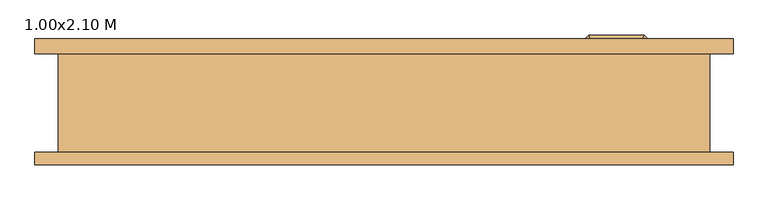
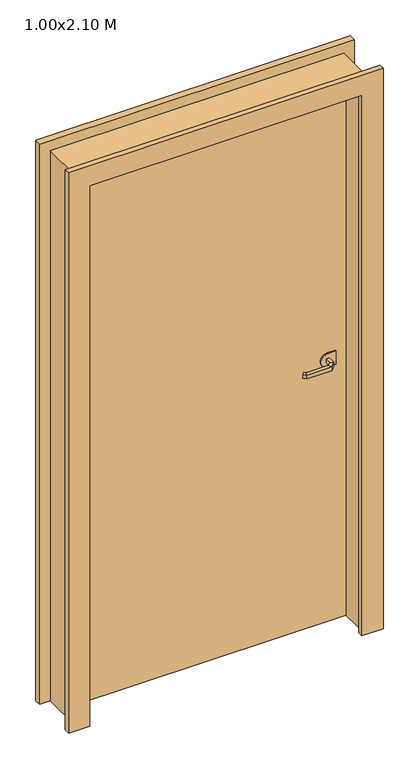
"""IFC4 building model written with IfcOpenShell, lengths in millimetres: door geometry, PUERTA DE  MADERA-CEDRO : 1.00x2.10 M."""

import ifcopenshell
import ifcopenshell.guid

model = None  # the IFC model being written
_history = None  # IfcOwnerHistory: only IFC2X3 demands one
_inside = {}  # id of a spatial element -> (the spatial element, [elements in it])
_under = {}  # id of a project, library or spatial element -> (it, [spatial elements below it])
_declared = {}  # id of a project -> (the project, [libraries it declares])
_typed = {}  # id of a type object -> (the type object, [elements of that type])
_made_of = {}  # id of a material, layer set ... -> (it, [elements and type objects made of it])


def new_model(schema):
    """Start an empty IFC model of exactly this schema.

    Asked for "IFC4X3", IfcOpenShell would pick the latest addendum, in which some entities
    have other attributes; the version numbers below select the first issue.
    IFC2X3 requires an IfcOwnerHistory on every rooted entity: one is made here for all.
    """
    global model, _history
    if schema == "IFC4X3":
        model = ifcopenshell.file(schema_version=(4, 3, 0, 0))
    else:
        model = ifcopenshell.file(schema=schema)
    _inside.clear()
    _under.clear()
    _declared.clear()
    _typed.clear()
    _made_of.clear()
    _history = None
    if model.schema == "IFC2X3":
        org = make("IfcOrganization", Name="unknown")
        user = make(
            "IfcPersonAndOrganization",
            ThePerson=make("IfcPerson", FamilyName="unknown"),
            TheOrganization=org,
        )
        app = make(
            "IfcApplication",
            ApplicationDeveloper=org,
            Version="unknown",
            ApplicationFullName="unknown",
            ApplicationIdentifier="unknown",
        )
        _history = make(
            "IfcOwnerHistory",
            OwningUser=user,
            OwningApplication=app,
            ChangeAction="ADDED",
            CreationDate=0,
        )
    return model


def make(cls, **values):
    """One entity of the class cls with the attributes given. An attribute that is None is left unset."""
    return model.create_entity(
        cls, **{name: value for name, value in values.items() if value is not None}
    )


def rooted(cls, **values):
    """An entity with a GlobalId (a new one), such as an element, a storey or a relation."""
    return make(cls, GlobalId=ifcopenshell.guid.new(), OwnerHistory=_history, **values)


def si_unit(unit_type, name, prefix=None):
    """IfcSIUnit, for example si_unit("LENGTHUNIT", "METRE", prefix="MILLI")."""
    return make("IfcSIUnit", UnitType=unit_type, Prefix=prefix, Name=name)


def assignment(units):
    """IfcUnitAssignment: the units of a project."""
    return None if units is None else make("IfcUnitAssignment", Units=units)


def point(xyz):
    """IfcCartesianPoint."""
    return None if xyz is None else make("IfcCartesianPoint", Coordinates=xyz)


def direction(xyz):
    """IfcDirection."""
    return None if xyz is None else make("IfcDirection", DirectionRatios=xyz)


def frame(location, z_axis=None, x_axis=None):
    """IfcAxis2Placement3D, a coordinate frame: its origin and axes. An axis left out is left unset."""
    return make(
        "IfcAxis2Placement3D",
        Location=point(location),
        Axis=direction(z_axis),
        RefDirection=direction(x_axis),
    )


def frame_2d(location, x_axis=None):
    """IfcAxis2Placement2D, a coordinate frame in the plane: its origin and x axis."""
    return make(
        "IfcAxis2Placement2D", Location=point(location), RefDirection=direction(x_axis)
    )


def origin():
    """The frame at (0, 0, 0) with its axes left unset."""
    return frame((0.0, 0.0, 0.0))


def origin_with_axes():
    """The frame at (0, 0, 0) with the z axis (0, 0, 1) and the x axis (1, 0, 0) written out."""
    return frame((0.0, 0.0, 0.0), z_axis=(0.0, 0.0, 1.0), x_axis=(1.0, 0.0, 0.0))


def place(relative_to, where):
    """IfcLocalPlacement: puts the frame where relative to a parent placement (None: the world)."""
    return make(
        "IfcLocalPlacement", PlacementRelTo=relative_to, RelativePlacement=where
    )


def context(
    kind, dimensions, precision=None, world=None, true_north=None, identifier=None
):
    """IfcGeometricRepresentationContext, for example the 3D "Model" context."""
    return make(
        "IfcGeometricRepresentationContext",
        ContextIdentifier=identifier,
        ContextType=kind,
        CoordinateSpaceDimension=dimensions,
        Precision=precision,
        WorldCoordinateSystem=world,
        TrueNorth=true_north,
    )


def project(units=None, contexts=None):
    """IfcProject with its units and contexts."""
    return rooted(
        "IfcProject",
        Name="project",
        RepresentationContexts=contexts,
        UnitsInContext=assignment(units),
    )


def spatial(cls, under=None, at=None, **own):
    """A site, building, storey or space (cls), placed at a placement, below another one or the project."""
    s = rooted(cls, ObjectPlacement=at, **own)
    if under is not None:
        _under.setdefault(under.id(), (under, []))[1].append(s)
    return s


def polyline(points):
    """IfcPolyline through the points."""
    return make("IfcPolyline", Points=[point(p) for p in points])


def circle_curve(where, radius):
    """IfcCircle in the frame where."""
    return make("IfcCircle", Position=where, Radius=radius)


def ellipse_curve(where, semi_axis1, semi_axis2):
    """IfcEllipse in the frame where."""
    return make(
        "IfcEllipse", Position=where, SemiAxis1=semi_axis1, SemiAxis2=semi_axis2
    )


def trimmed(basis, trim1, trim2, sense, master):
    """IfcTrimmedCurve: the piece of a basis curve between two trims."""
    return make(
        "IfcTrimmedCurve",
        BasisCurve=basis,
        Trim1=trim1,
        Trim2=trim2,
        SenseAgreement=sense,
        MasterRepresentation=master,
    )


def segment(curve, same_sense, transition):
    """IfcCompositeCurveSegment."""
    return make(
        "IfcCompositeCurveSegment",
        Transition=transition,
        SameSense=same_sense,
        ParentCurve=curve,
    )


def composite_curve(segments, self_intersect=None):
    """IfcCompositeCurve: segments joined end to end."""
    return make("IfcCompositeCurve", Segments=segments, SelfIntersect=self_intersect)


def outline(outer, holes=None, kind="AREA"):
    """IfcArbitraryClosedProfileDef: a profile drawn as a closed curve; with holes, ...WithVoids."""
    if holes is None:
        return make("IfcArbitraryClosedProfileDef", ProfileType=kind, OuterCurve=outer)
    return make(
        "IfcArbitraryProfileDefWithVoids",
        ProfileType=kind,
        OuterCurve=outer,
        InnerCurves=holes,
    )


def extrude(swept, where, along, depth):
    """IfcExtrudedAreaSolid: the profile swept, set in the frame where, extruded along a direction by depth."""
    return make(
        "IfcExtrudedAreaSolid",
        SweptArea=swept,
        Position=where,
        ExtrudedDirection=direction(along),
        Depth=depth,
    )


def faces_of(points, faces, orient=None, outer=None):
    """IfcFace entities. A face is a list of loops; a loop is a list of indices into points, from 0.

    orient and outer hold one flag for each loop. By default every Orientation is true, the
    first loop of a face is its IfcFaceOuterBound and the others are IfcFaceBound.
    """
    made = []
    for i, loops in enumerate(faces):
        bounds = []
        for j, loop in enumerate(loops):
            is_outer = j == 0 if outer is None else outer[i][j]
            bounds.append(
                make(
                    "IfcFaceOuterBound" if is_outer else "IfcFaceBound",
                    Bound=make("IfcPolyLoop", Polygon=[points[k] for k in loop]),
                    Orientation=True if orient is None else orient[i][j],
                )
            )
        made.append(make("IfcFace", Bounds=bounds))
    return made


def faceted_brep(points, faces, orient=None, outer=None, voids=None):
    """IfcFacetedBrep: a solid bounded by flat faces; with voids (closed shells), ...WithVoids."""
    shared = [point(p) for p in points]
    hull = make("IfcClosedShell", CfsFaces=faces_of(shared, faces, orient, outer))
    if voids is None:
        return make("IfcFacetedBrep", Outer=hull)
    return make(
        "IfcFacetedBrepWithVoids",
        Outer=hull,
        Voids=[
            make(cls, CfsFaces=faces_of(shared, fs, o, b)) for cls, fs, o, b in voids
        ],
    )


def shape(context_of_items, identifier, shape_type, items):
    """IfcShapeRepresentation: the items that make up one representation, for example the "Body"."""
    return make(
        "IfcShapeRepresentation",
        ContextOfItems=context_of_items,
        RepresentationIdentifier=identifier,
        RepresentationType=shape_type,
        Items=items,
    )


def source(mapping_origin, context_of_items, identifier, shape_type, items):
    """IfcRepresentationMap: a shape defined once, which mapped items show again and again."""
    return make(
        "IfcRepresentationMap",
        MappingOrigin=mapping_origin,
        MappedRepresentation=shape(context_of_items, identifier, shape_type, items),
    )


def transform(
    local_origin,
    x_axis=None,
    y_axis=None,
    z_axis=None,
    scale=None,
    scale2=None,
    scale3=None,
    uniform=True,
):
    """IfcCartesianTransformationOperator3D, or its non-uniform kind. x_axis, y_axis, z_axis: its Axis1, 2, 3."""
    if uniform:
        return make(
            "IfcCartesianTransformationOperator3D",
            Axis1=direction(x_axis),
            Axis2=direction(y_axis),
            LocalOrigin=point(local_origin),
            Scale=scale,
            Axis3=direction(z_axis),
        )
    return make(
        "IfcCartesianTransformationOperator3DnonUniform",
        Axis1=direction(x_axis),
        Axis2=direction(y_axis),
        LocalOrigin=point(local_origin),
        Scale=scale,
        Axis3=direction(z_axis),
        Scale2=scale2,
        Scale3=scale3,
    )


def mapped(mapping_source, mapping_target):
    """IfcMappedItem: shows the shape of a source again, moved by a transform."""
    return make(
        "IfcMappedItem", MappingSource=mapping_source, MappingTarget=mapping_target
    )


def made_of(thing, what):
    """Note that an element or type object is made of a material, layer set ...; save() writes the relation."""
    if what is not None:
        _made_of.setdefault(what.id(), (what, []))[1].append(thing)
    return thing


def element(
    cls,
    number,
    at=None,
    inside=None,
    cuts=None,
    type_object=None,
    material=None,
    context=None,
    identifier="Body",
    shape_type=None,
    held_by="IfcProductDefinitionShape",
    body=None,
    shapes=None,
    **own,
):
    """One element of the class cls, such as IfcWall. Its Tag is "e" and its number.

    at: its placement. inside: the storey or other place that contains it. cuts: it is an
    opening in that element (IfcRelVoidsElement). A single representation is given by context,
    identifier, shape_type and body (its items); several are given by shapes. held_by: the class
    of the entity that holds the representations. save() writes the other relations.
    """
    e = rooted(cls, Tag="e%d" % number, ObjectPlacement=at, **own)
    if body is not None:
        shapes = [shape(context, identifier, shape_type, body)]
    if shapes is not None:
        e.Representation = make(held_by, Representations=shapes)
    if inside is not None:
        _inside.setdefault(inside.id(), (inside, []))[1].append(e)
    if cuts is not None:
        rooted(
            "IfcRelVoidsElement", RelatingBuildingElement=cuts, RelatedOpeningElement=e
        )
    if type_object is not None:
        _typed.setdefault(type_object.id(), (type_object, []))[1].append(e)
    return made_of(e, material)


def aggregate(whole, parts):
    """IfcRelAggregates: a whole, such as a stair, and the parts it consists of."""
    return rooted("IfcRelAggregates", RelatingObject=whole, RelatedObjects=parts)


def save(model, path):
    """Write the relations noted so far, then the file.

    IfcRelAggregates (storeys below a building ...), IfcRelContainedInSpatialStructure (elements
    in a storey), IfcRelDefinesByType, IfcRelAssociatesMaterial and IfcRelDeclares: one each for
    every whole, place, type object, material and project.
    """
    for whole, parts in _under.values():
        aggregate(whole, parts)
    for where, things in _inside.values():
        rooted(
            "IfcRelContainedInSpatialStructure",
            RelatedElements=things,
            RelatingStructure=where,
        )
    for kind, things in _typed.values():
        rooted("IfcRelDefinesByType", RelatedObjects=things, RelatingType=kind)
    for what, things in _made_of.values():
        rooted("IfcRelAssociatesMaterial", RelatedObjects=things, RelatingMaterial=what)
    for by, libraries in _declared.values():
        rooted("IfcRelDeclares", RelatingContext=by, RelatedDefinitions=libraries)
    model.write(path)


def plane_surface(at):
    """IfcPlane: the flat surface through the origin of the frame at, square to its z axis."""
    return make("IfcPlane", Position=at)


def cylinder_surface(at, radius):
    """IfcCylindricalSurface: all points at the distance radius from the z axis of the frame at."""
    return make("IfcCylindricalSurface", Position=at, Radius=radius)


def advanced_brep(points, edges, surfaces, faces):
    """IfcAdvancedBrep: a solid bounded by faces that lie on surfaces and meet in shared edges.

    An edge is (start, end): straight between two places in points (the first is 0);
    or (start, end, curve); or (start, end, curve, False) where it runs against its curve.
    A face is (place in surfaces, loops), or (place, loops, False) where it looks against
    its surface's normal. A loop lists edges by number (the first is 1), with a minus sign
    where the edge is run from its end to its start. The first loop is the outer one.
    """
    corners = [point(p) for p in points]
    vertices = [make("IfcVertexPoint", VertexGeometry=c) for c in corners]
    made = []
    for start, end, *more in edges:
        made.append(
            make(
                "IfcEdgeCurve",
                EdgeStart=vertices[start],
                EdgeEnd=vertices[end],
                EdgeGeometry=more[0] if more else make("IfcPolyline", Points=[corners[start], corners[end]]),
                SameSense=more[1] if len(more) > 1 else True,
            )
        )
    hull = []
    for where, loops, *sense in faces:
        bounds = []
        for j, loop in enumerate(loops):
            ring = [make("IfcOrientedEdge", EdgeElement=made[abs(k) - 1], Orientation=k > 0) for k in loop]
            bounds.append(
                make(
                    "IfcFaceOuterBound" if j == 0 else "IfcFaceBound",
                    Bound=make("IfcEdgeLoop", EdgeList=ring),
                    Orientation=True,
                )
            )
        hull.append(make("IfcAdvancedFace", Bounds=bounds, FaceSurface=surfaces[where], SameSense=sense[0] if sense else True))
    return make("IfcAdvancedBrep", Outer=make("IfcClosedShell", CfsFaces=hull))


def door_1_00x2_10_m_2c351bbd(model_context):
    return source(origin(), model_context, "Body", "SolidModel", [
        extrude(outline(composite_curve([segment(polyline([(975.0, 465.9), (1025.0, 465.9), (1025.0, 435.9)]), True, "CONTINUOUS"), segment(trimmed(circle_curve(frame_2d((1000.0, 435.9)), 25.0), [point((1025.0, 435.9))], [point((975.0, 435.9))], False, "CARTESIAN"), True, "CONTINUOUS"), segment(polyline([(975.0, 435.9), (975.0, 465.9)]), True, "CONTINUOUS")], self_intersect=False)), frame((0.0, 16.9, 0.0), z_axis=(0.0, 1.0, 0.0), x_axis=(0.0, 0.0, 1.0)), (0.0, 0.0, 1.0), 5.0),
        advanced_brep(
        [(429.9, 16.9, 993.0), (429.9, 16.9, 1007.0), (441.9, 16.9, 1007.0), (441.9, 16.9, 993.0), (429.9, -5.5852045, 993.0), (429.9, -5.5852045, 1007.0), (441.9, -10.5557673, 1007.0), (441.9, -10.5557673, 993.0), (418.4147186, -17.0704859, 993.0), (418.4147186, -17.0704859, 1007.0), (423.3852814, -29.0704859, 1007.0), (423.3852814, -29.0704859, 993.0), (338.3394977, -17.0704859, 993.0), (338.3394977, -17.0704859, 1007.0), (333.368935, -29.0704859, 1007.0), (333.368935, -29.0704859, 993.0), (333.0257892, -11.7567774, 993.0), (324.5405078, -20.2420588, 993.0), (324.5405078, -20.2420588, 1007.0), (333.0257892, -11.7567774, 1007.0)],
        [
            (0, 1),
            (1, 2, circle_curve(frame((435.9, 16.9, 986.9542278), z_axis=(0.0, 1.0, 0.0), x_axis=(1.0, 0.0, 0.0)), 20.9244589)),
            (2, 3),
            (3, 0, circle_curve(frame((435.9, 16.9, 1013.0457722), z_axis=(0.0, 1.0, 0.0), x_axis=(1.0, 0.0, 0.0)), 20.9244589)),
            (0, 4),
            (4, 5),
            (5, 1),
            (5, 6, ellipse_curve(frame((435.9, -8.0704859, 986.9542278), z_axis=(0.38268343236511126, 0.9238795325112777, 0.0), x_axis=(-0.9238795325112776, 0.3826834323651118, 0.0)), 22.6484711, 20.9244589)),
            (6, 2),
            (6, 7),
            (7, 3),
            (7, 4, ellipse_curve(frame((435.9, -8.0704859, 1013.0457722), z_axis=(0.38268343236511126, 0.9238795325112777, 0.0), x_axis=(-0.9238795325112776, 0.3826834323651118, 0.0)), 22.6484711, 20.9244589)),
            (4, 8),
            (8, 9),
            (9, 5),
            (9, 10, ellipse_curve(frame((420.9, -23.0704859, 986.9542278), z_axis=(0.9238795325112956, 0.3826834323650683, 0.0), x_axis=(-0.38268343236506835, 0.9238795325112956, 0.0)), 22.6484711, 20.9244589)),
            (10, 6),
            (10, 11),
            (11, 7),
            (11, 8, ellipse_curve(frame((420.9, -23.0704859, 1013.0457722), z_axis=(0.9238795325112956, 0.3826834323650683, 0.0), x_axis=(-0.38268343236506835, 0.9238795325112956, 0.0)), 22.6484711, 20.9244589)),
            (8, 12),
            (12, 13),
            (13, 9),
            (13, 14, ellipse_curve(frame((335.8542163, -23.0704859, 986.9542278), z_axis=(0.9238795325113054, -0.3826834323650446, 0.0), x_axis=(0.3826834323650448, 0.9238795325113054, 0.0)), 22.6484711, 20.9244589)),
            (14, 10),
            (14, 15),
            (15, 11),
            (15, 12, ellipse_curve(frame((335.8542163, -23.0704859, 1013.0457722), z_axis=(0.9238795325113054, -0.3826834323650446, 0.0), x_axis=(0.3826834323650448, 0.9238795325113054, 0.0)), 22.6484711, 20.9244589)),
            (16, 17, circle_curve(frame((328.7831485, -15.9994181, 1013.0457722), z_axis=(-0.707106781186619, 0.7071067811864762, 0.0), x_axis=(-0.7071067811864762, -0.707106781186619, 0.0)), 20.9244589)),
            (17, 18),
            (18, 19, circle_curve(frame((328.7831485, -15.9994181, 986.9542278), z_axis=(-0.707106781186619, 0.7071067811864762, 0.0), x_axis=(-0.7071067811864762, -0.707106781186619, 0.0)), 20.9244589)),
            (19, 16),
            (12, 16),
            (19, 13),
            (18, 14),
            (17, 15),
        ],
        [
            plane_surface(frame((445.1195445, 16.9, 1000.0), z_axis=(0.0, 1.0, 0.0), x_axis=(0.0, 0.0, 1.0))),
            plane_surface(frame((429.9, 16.9, 993.0), z_axis=(-1.0, 0.0, 0.0), x_axis=(0.0, -1.0, 0.0))),
            cylinder_surface(frame((435.9, 16.9, 986.9542278), z_axis=(0.0, 1.0, 0.0), x_axis=(1.0, 0.0, 0.0)), 20.9244589),
            plane_surface(frame((441.9, 16.9, 1007.0), z_axis=(1.0, 0.0, 0.0), x_axis=(0.0, -1.0, 0.0))),
            cylinder_surface(frame((435.9, 16.9, 1013.0457722), z_axis=(0.0, 1.0, 0.0), x_axis=(1.0, 0.0, 0.0)), 20.9244589),
            plane_surface(frame((429.9, -5.5852045, 993.0), z_axis=(-0.7071067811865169, 0.7071067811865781, 0.0), x_axis=(-0.7071067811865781, -0.7071067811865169, 0.0))),
            cylinder_surface(frame((435.9, -8.0704859, 986.9542278), z_axis=(0.7071067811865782, 0.7071067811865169, 0.0), x_axis=(0.7071067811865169, -0.7071067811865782, 0.0)), 20.9244589),
            plane_surface(frame((441.9, -10.5557673, 1007.0), z_axis=(0.7071067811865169, -0.7071067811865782, 0.0), x_axis=(-0.7071067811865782, -0.7071067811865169, 0.0))),
            cylinder_surface(frame((435.9, -8.0704859, 1013.0457722), z_axis=(0.7071067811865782, 0.7071067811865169, 0.0), x_axis=(0.7071067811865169, -0.7071067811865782, 0.0)), 20.9244589),
            plane_surface(frame((418.4147186, -17.0704859, 993.0), z_axis=(0.0, 1.0, 0.0), x_axis=(-1.0, 0.0, 0.0))),
            cylinder_surface(frame((420.9, -23.0704859, 986.9542278), z_axis=(1.0, 0.0, 0.0), x_axis=(0.0, -1.0, 0.0)), 20.9244589),
            plane_surface(frame((423.3852814, -29.0704859, 1007.0), z_axis=(0.0, -1.0, 0.0), x_axis=(-1.0, 0.0, 0.0))),
            cylinder_surface(frame((420.9, -23.0704859, 1013.0457722), z_axis=(1.0, 0.0, 0.0), x_axis=(0.0, -1.0, 0.0)), 20.9244589),
            plane_surface(frame((328.7831485, -15.9994181, 990.7804555), z_axis=(-0.707106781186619, 0.7071067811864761, 0.0), x_axis=(-0.7071067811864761, -0.707106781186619, 0.0))),
            plane_surface(frame((338.3394977, -17.0704859, 993.0), z_axis=(0.7071067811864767, 0.7071067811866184, 0.0), x_axis=(-0.7071067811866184, 0.7071067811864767, 0.0))),
            cylinder_surface(frame((335.8542163, -23.0704859, 986.9542278), z_axis=(0.707106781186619, -0.7071067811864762, 0.0), x_axis=(-0.7071067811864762, -0.707106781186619, 0.0)), 20.9244589),
            plane_surface(frame((333.368935, -29.0704859, 1007.0), z_axis=(-0.7071067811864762, -0.7071067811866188, 0.0), x_axis=(-0.7071067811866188, 0.7071067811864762, 0.0))),
            cylinder_surface(frame((335.8542163, -23.0704859, 1013.0457722), z_axis=(0.707106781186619, -0.7071067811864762, 0.0), x_axis=(-0.7071067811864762, -0.707106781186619, 0.0)), 20.9244589),
        ],
        [
            (0, [[1, 2, 3, 4]]),
            (1, [[-1, 5, 6, 7]]),
            (2, [[-2, -7, 8, 9]]),
            (3, [[-3, -9, 10, 11]]),
            (4, [[-4, -11, 12, -5]]),
            (5, [[-6, 13, 14, 15]]),
            (6, [[-8, -15, 16, 17]]),
            (7, [[-10, -17, 18, 19]]),
            (8, [[-12, -19, 20, -13]]),
            (9, [[-14, 21, 22, 23]]),
            (10, [[-16, -23, 24, 25]]),
            (11, [[-18, -25, 26, 27]]),
            (12, [[-20, -27, 28, -21]]),
            (13, [[29, 30, 31, 32]]),
            (14, [[-22, 33, -32, 34]]),
            (15, [[-24, -34, -31, 35]]),
            (16, [[-26, -35, -30, 36]]),
            (17, [[-28, -36, -29, -33]]),
        ],
    ),
        advanced_brep(
        [(441.9, 65.0, 1007.0), (429.9, 65.0, 1007.0), (429.9, 65.0, 993.0), (441.9, 65.0, 993.0), (441.9, 92.6509507, 1007.0), (429.9, 87.680388, 1007.0), (429.9, 87.680388, 993.0), (441.9, 92.6509507, 993.0), (423.52279, 111.0281607, 1007.0), (418.5522273, 99.0281607, 1007.0), (418.5522273, 99.0281607, 993.0), (423.52279, 111.0281607, 993.0), (333.396078, 111.0281607, 1007.0), (338.3666408, 99.0281607, 1007.0), (338.3666408, 99.0281607, 993.0), (333.396078, 111.0281607, 993.0), (324.5676509, 102.1997336, 1007.0), (324.5676509, 102.1997336, 993.0), (333.0529323, 93.7144522, 993.0), (333.0529323, 93.7144522, 1007.0)],
        [
            (0, 1, circle_curve(frame((435.9, 65.0, 986.9542278), z_axis=(0.0, -1.0, 0.0), x_axis=(-1.0, 0.0, 0.0)), 20.9244589)),
            (1, 2),
            (2, 3, circle_curve(frame((435.9, 65.0, 1013.0457722), z_axis=(0.0, -1.0, 0.0), x_axis=(-1.0, 0.0, 0.0)), 20.9244589)),
            (3, 0),
            (0, 4),
            (4, 5, ellipse_curve(frame((435.9, 90.1656693, 986.9542278), z_axis=(0.3826834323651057, -0.9238795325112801, 0.0), x_axis=(-0.9238795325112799, -0.38268343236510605, 0.0)), 22.6484711, 20.9244589)),
            (5, 1),
            (5, 6),
            (6, 2),
            (6, 7, ellipse_curve(frame((435.9, 90.1656693, 1013.0457722), z_axis=(0.3826834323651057, -0.9238795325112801, 0.0), x_axis=(-0.9238795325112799, -0.38268343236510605, 0.0)), 22.6484711, 20.9244589)),
            (7, 3),
            (7, 4),
            (4, 8),
            (8, 9, ellipse_curve(frame((421.0375086, 105.0281607, 986.9542278), z_axis=(0.9238795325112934, -0.3826834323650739, 0.0), x_axis=(-0.3826834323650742, -0.9238795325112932, 0.0)), 22.6484711, 20.9244589)),
            (9, 5),
            (9, 10),
            (10, 6),
            (10, 11, ellipse_curve(frame((421.0375086, 105.0281607, 1013.0457722), z_axis=(0.9238795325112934, -0.3826834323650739, 0.0), x_axis=(-0.3826834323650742, -0.9238795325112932, 0.0)), 22.6484711, 20.9244589)),
            (11, 7),
            (11, 8),
            (8, 12),
            (12, 13, ellipse_curve(frame((335.8813594, 105.0281607, 986.9542278), z_axis=(0.9238795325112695, 0.3826834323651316, 0.0), x_axis=(0.38268343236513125, -0.9238795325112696, 0.0)), 22.6484711, 20.9244589)),
            (13, 9),
            (13, 14),
            (14, 10),
            (14, 15, ellipse_curve(frame((335.8813594, 105.0281607, 1013.0457722), z_axis=(0.9238795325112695, 0.3826834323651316, 0.0), x_axis=(0.38268343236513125, -0.9238795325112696, 0.0)), 22.6484711, 20.9244589)),
            (15, 11),
            (15, 12),
            (16, 17),
            (17, 18, circle_curve(frame((328.8102916, 97.9570929, 1013.0457722), z_axis=(-0.7071067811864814, -0.7071067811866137, 0.0), x_axis=(0.7071067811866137, -0.7071067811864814, 0.0)), 20.9244589)),
            (18, 19),
            (19, 16, circle_curve(frame((328.8102916, 97.9570929, 986.9542278), z_axis=(-0.7071067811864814, -0.7071067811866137, 0.0), x_axis=(0.7071067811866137, -0.7071067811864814, 0.0)), 20.9244589)),
            (12, 16),
            (19, 13),
            (18, 14),
            (17, 15),
        ],
        [
            plane_surface(frame((445.1195445, 65.0, 1000.0), z_axis=(0.0, -1.0, 0.0), x_axis=(0.0, 0.0, -1.0))),
            cylinder_surface(frame((435.9, 65.0, 986.9542278), z_axis=(0.0, -1.0, 0.0), x_axis=(-1.0, 0.0, 0.0)), 20.9244589),
            plane_surface(frame((429.9, 65.0, 1007.0), z_axis=(-1.0, 0.0, 0.0), x_axis=(0.0, 1.0, 0.0))),
            cylinder_surface(frame((435.9, 65.0, 1013.0457722), z_axis=(0.0, -1.0, 0.0), x_axis=(-1.0, 0.0, 0.0)), 20.9244589),
            plane_surface(frame((441.9, 65.0, 993.0), z_axis=(1.0, 0.0, 0.0), x_axis=(0.0, 1.0, 0.0))),
            cylinder_surface(frame((435.9, 90.1656693, 986.9542278), z_axis=(0.7071067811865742, -0.7071067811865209, 0.0), x_axis=(-0.7071067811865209, -0.7071067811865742, 0.0)), 20.9244589),
            plane_surface(frame((429.9, 87.680388, 1007.0), z_axis=(-0.7071067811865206, -0.7071067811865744, 0.0), x_axis=(-0.7071067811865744, 0.7071067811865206, 0.0))),
            cylinder_surface(frame((435.9, 90.1656693, 1013.0457722), z_axis=(0.7071067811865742, -0.7071067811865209, 0.0), x_axis=(-0.7071067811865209, -0.7071067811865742, 0.0)), 20.9244589),
            plane_surface(frame((441.9, 92.6509507, 993.0), z_axis=(0.707106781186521, 0.7071067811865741, 0.0), x_axis=(-0.7071067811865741, 0.707106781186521, 0.0))),
            cylinder_surface(frame((421.0375086, 105.0281607, 986.9542278), z_axis=(1.0, 0.0, 0.0), x_axis=(0.0, -1.0, 0.0)), 20.9244589),
            plane_surface(frame((418.5522273, 99.0281607, 1007.0), z_axis=(0.0, -1.0, 0.0), x_axis=(-1.0, 0.0, 0.0))),
            cylinder_surface(frame((421.0375086, 105.0281607, 1013.0457722), z_axis=(1.0, 0.0, 0.0), x_axis=(0.0, -1.0, 0.0)), 20.9244589),
            plane_surface(frame((423.52279, 111.0281607, 993.0), z_axis=(0.0, 1.0, 0.0), x_axis=(-1.0, 0.0, 0.0))),
            plane_surface(frame((328.8102916, 97.9570929, 1009.2195445), z_axis=(-0.7071067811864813, -0.7071067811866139, 0.0), x_axis=(-0.7071067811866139, 0.7071067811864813, 0.0))),
            cylinder_surface(frame((335.8813594, 105.0281607, 986.9542278), z_axis=(0.7071067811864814, 0.7071067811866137, 0.0), x_axis=(0.7071067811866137, -0.7071067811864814, 0.0)), 20.9244589),
            plane_surface(frame((338.3666408, 99.0281607, 1007.0), z_axis=(0.7071067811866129, -0.7071067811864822, 0.0), x_axis=(-0.7071067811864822, -0.7071067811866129, 0.0))),
            cylinder_surface(frame((335.8813594, 105.0281607, 1013.0457722), z_axis=(0.7071067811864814, 0.7071067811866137, 0.0), x_axis=(0.7071067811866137, -0.7071067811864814, 0.0)), 20.9244589),
            plane_surface(frame((333.396078, 111.0281607, 993.0), z_axis=(-0.7071067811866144, 0.7071067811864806, 0.0), x_axis=(-0.7071067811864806, -0.7071067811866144, 0.0))),
        ],
        [
            (0, [[1, 2, 3, 4]]),
            (1, [[-1, 5, 6, 7]]),
            (2, [[-2, -7, 8, 9]]),
            (3, [[-3, -9, 10, 11]]),
            (4, [[-4, -11, 12, -5]]),
            (5, [[-6, 13, 14, 15]]),
            (6, [[-8, -15, 16, 17]]),
            (7, [[-10, -17, 18, 19]]),
            (8, [[-12, -19, 20, -13]]),
            (9, [[-14, 21, 22, 23]]),
            (10, [[-16, -23, 24, 25]]),
            (11, [[-18, -25, 26, 27]]),
            (12, [[-20, -27, 28, -21]]),
            (13, [[29, 30, 31, 32]]),
            (14, [[-22, 33, -32, 34]]),
            (15, [[-24, -34, -31, 35]]),
            (16, [[-26, -35, -30, 36]]),
            (17, [[-28, -36, -29, -33]]),
        ],
    ),
        extrude(outline(composite_curve([segment(polyline([(975.0, 465.9), (1025.0, 465.9), (1025.0, 435.9)]), True, "CONTINUOUS"), segment(trimmed(circle_curve(frame_2d((1000.0, 435.9)), 25.0), [point((1025.0, 435.9))], [point((975.0, 435.9))], False, "CARTESIAN"), True, "CONTINUOUS"), segment(polyline([(975.0, 435.9), (975.0, 465.9)]), True, "CONTINUOUS")], self_intersect=False)), frame((0.0, 60.0, 0.0), z_axis=(0.0, 1.0, 0.0), x_axis=(0.0, 0.0, 1.0)), (0.0, 0.0, 1.0), 5.0),
        extrude(outline(polyline([(2061.9, 491.9), (0.0, 491.9), (0.0, 568.1), (2138.1, 568.1), (2138.1, -568.1), (0.0, -568.1), (0.0, -491.9), (2061.9, -491.9), (2061.9, 491.9)])), frame((0.0, -100.0, 0.0), z_axis=(0.0, 1.0, 0.0), x_axis=(0.0, 0.0, 1.0)), (0.0, 0.0, 1.0), 20.0),
        faceted_brep([(-530.0, -80.0, 0.0), (-530.0, 80.0, 0.0), (-491.9, 80.0, 0.0), (-491.9, 60.0, 0.0), (-504.6, 60.0, 0.0), (-504.6, -80.0, 0.0), (-530.0, -80.0, 2100.0), (-530.0, 80.0, 2100.0), (530.0, 80.0, 2100.0), (530.0, 80.0, 0.0), (491.9, 80.0, 0.0), (491.9, 80.0, 2061.9), (-491.9, 80.0, 2061.9), (-491.9, 60.0, 2061.9), (491.9, 60.0, 2061.9), (491.9, 60.0, 0.0), (504.6, 60.0, 0.0), (504.6, 60.0, 2074.6), (-504.6, 60.0, 2074.6), (-504.6, -80.0, 2074.6), (504.6, -80.0, 2074.6), (504.6, -80.0, 0.0), (530.0, -80.0, 0.0), (530.0, -80.0, 2100.0)], [[[0, 1, 2, 3, 4, 5]], [[1, 0, 6, 7]], [[2, 1, 7, 8, 9, 10, 11, 12]], [[3, 2, 12, 13]], [[4, 3, 13, 14, 15, 16, 17, 18]], [[5, 4, 18, 19]], [[0, 5, 19, 20, 21, 22, 23, 6]], [[8, 23, 22, 9]], [[22, 21, 16, 15, 10, 9]], [[14, 11, 10, 15]], [[20, 17, 16, 21]], [[7, 6, 23, 8]], [[13, 12, 11, 14]], [[19, 18, 17, 20]]]),
        extrude(outline(polyline([(2061.9, 491.9), (0.0, 491.9), (0.0, 568.1), (2138.1, 568.1), (2138.1, -568.1), (0.0, -568.1), (0.0, -491.9), (2061.9, -491.9), (2061.9, 491.9)])), frame((0.0, 80.0, 0.0), z_axis=(0.0, 1.0, 0.0), x_axis=(0.0, 0.0, 1.0)), (0.0, 0.0, 1.0), 25.0),
        extrude(outline(polyline([(-504.6, 60.0), (504.6, 60.0), (504.6, 21.9), (-504.6, 21.9), (-504.6, 60.0)])), origin_with_axes(), (0.0, 0.0, 1.0), 2074.6),
    ])


if __name__ == "__main__":
    model = new_model("IFC4")
    model_context = context("Model", 3, world=origin())
    ifc_project = project(units=[si_unit("LENGTHUNIT", "METRE", prefix="MILLI")], contexts=[model_context])
    site = spatial("IfcSite", under=ifc_project)
    building = spatial("IfcBuilding", under=site)
    placement = place(None, origin())
    door_1_00x2_10_m_shape = door_1_00x2_10_m_2c351bbd(model_context)
    element("IfcDoor", 1, ObjectType="PUERTA DE  MADERA-CEDRO : 1.00x2.10 M", at=placement, inside=building, context=model_context, shape_type="MappedRepresentation", body=[
        mapped(door_1_00x2_10_m_shape, transform((0.0, 0.0, 0.0), x_axis=(1.0, 0.0, 0.0), y_axis=(0.0, 1.0, 0.0), z_axis=(0.0, 0.0, 1.0))),
    ])
    save(model, "model.ifc")
